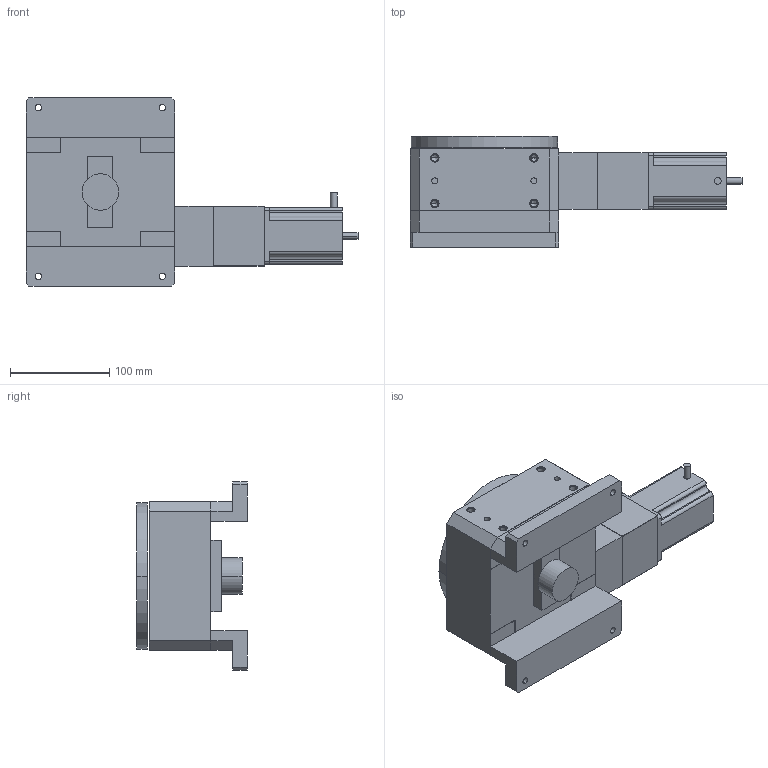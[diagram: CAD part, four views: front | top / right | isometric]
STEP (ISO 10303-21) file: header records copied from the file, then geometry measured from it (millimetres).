
FILE_DESCRIPTION((''),'2;1');
FILE_NAME('R150M7MP3E1_ASM','2009-07-02T',('FK20128'),(''),'PRO/ENGINEER BY PARAMETRIC TECHNOLOGY CORPORATION, 2006200','PRO/ENGINEER BY PARAMETRIC TECHNOLOGY CORPORATION, 2006200','');
FILE_SCHEMA(('CONFIG_CONTROL_DESIGN'));
Length unit declared in the file: millimetre
Products named in the file (8): R150M; R150M-M22; RXXXM-HV233; R150M-ENCODER-BRKT; R150M-ENCODER-STANDOFF; RXXXM-ENCODER; R150M-E1_ASM; R150M7MP3E1_ASM
Assembly tree (8 placements, depth 3):
  R150M7MP3E1_ASM
    R150M
    R150M-M22
    RXXXM-HV233
    R150M-E1_ASM
      R150M-ENCODER-BRKT
      R150M-ENCODER-STANDOFF  x2
      RXXXM-ENCODER
Bounding box: 334.86 x 111.83 x 190 mm (x, y, z)
Volume: 2353780.2 mm3; surface area: 260312.1 mm2
Topology: 8 solids, 28 shells, 347 faces, 857 edges, 568 vertices
Faces by surface type: cylinder 186, plane 135, cone 26
Entity records: 9799 total; most frequent: DIRECTION 1853, CARTESIAN_POINT 1634, ORIENTED_EDGE 1470, EDGE_CURVE 771, AXIS2_PLACEMENT_3D 739, VERTEX_POINT 520, EDGE_LOOP 417, CIRCLE 396
